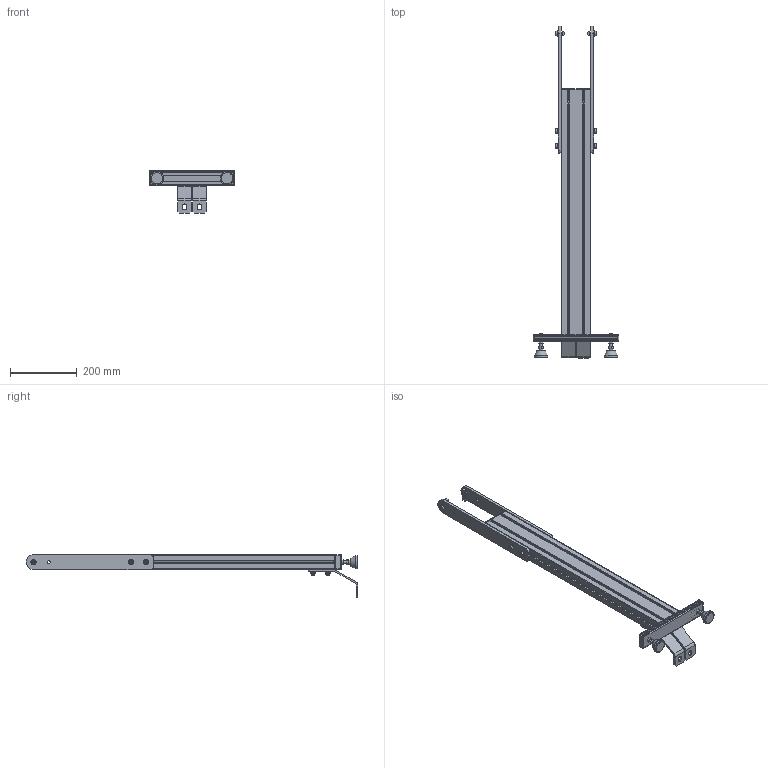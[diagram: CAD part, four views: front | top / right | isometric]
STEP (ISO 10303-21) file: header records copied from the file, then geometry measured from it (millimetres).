
FILE_DESCRIPTION (( 'STEP AP214' ), '1' );
FILE_NAME ('983-008-80.STEP', '2020-11-23T09:00:01', ( '' ), ( '' ), 'SwSTEP 2.0', 'SolidWorks 2020', '' );
FILE_SCHEMA (( 'AUTOMOTIVE_DESIGN' ));
Length unit declared in the file: millimetre
Products named in the file (16): CHASSIS JAMBAGE TB52 80_D‚faut[Brut d''usinage]; 905-020; 935-016; 983-007; 910-100; RONDELLE_910-111; 982-017; 935-055; 910-002_910-235; EMBOUT_915-013; CHC M8X20 + RP8; 905-021; 935-055SV; CHC THE_910-052H; EMBOUT_915-006; 983-008-80
Assembly tree (23 placements, depth 4):
  983-008-80
    CHASSIS JAMBAGE TB52 80_D‚faut[Brut d''usinage]
    935-055  x2
      935-055SV
      910-100
      910-002_910-235
    EMBOUT_915-006  x2
    935-016  x2
    EMBOUT_915-013
    983-007  x2
      CHC M8X20 + RP8
        CHC THE_910-052H
        RONDELLE_910-111
      905-020
      905-021
      982-017
Bounding box: 256 x 996.5 x 128 mm (x, y, z)
Volume: 2700763.8 mm3; surface area: 629954.9 mm2
Topology: 35 solids, 35 shells, 713 faces, 1695 edges, 1064 vertices
Faces by surface type: plane 452, cylinder 163, cone 72, sphere 12, torus 12, bspline 2
Full cylindrical faces by diameter (mm): 6 x6, 6.8 x14, 7.3 x3, 7.98 x6, 8 x14, 8.4 x6, 8.5 x8, 9 x4, 13 x6, 16 x6, 17 x4, 34 x2, 40 x2
Entity records: 9777 total; most frequent: CARTESIAN_POINT 1939, DIRECTION 1494, ORIENTED_EDGE 1384, EDGE_CURVE 692, LINE 504, VECTOR 504, AXIS2_PLACEMENT_3D 495, VERTEX_POINT 468
